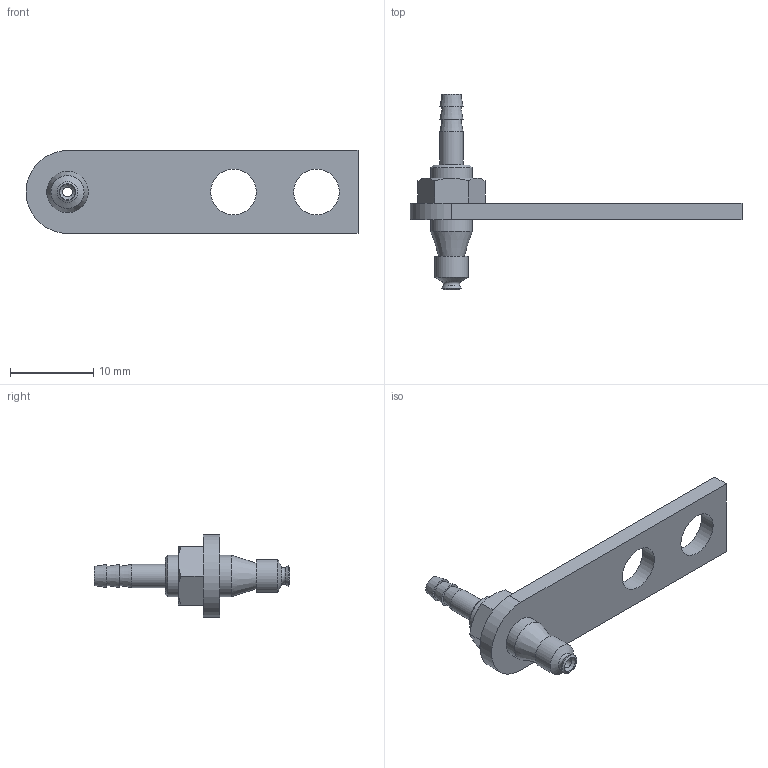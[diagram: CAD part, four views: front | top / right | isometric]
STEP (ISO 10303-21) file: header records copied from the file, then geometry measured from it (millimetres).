
FILE_DESCRIPTION(('STEP AP203'),'1');
FILE_NAME('.stp','2025-04-07T01:19:46',(' '),(' '),'Spatial InterOp 3D',' ',' ');
FILE_SCHEMA(('CONFIG_CONTROL_DESIGN'));
Length unit declared in the file: millimetre
Products named in the file (5): BBPFTK-2A-※; PF_K-Mounting plate; NUT-2A; PFTK-1.5A; BPFG-2A-※
Assembly tree (4 placements, depth 2):
  BBPFTK-2A-※
    PF_K-Mounting plate
    NUT-2A
    PFTK-1.5A
    BPFG-2A-※
Bounding box: 40 x 23.5 x 10 mm (x, y, z)
Volume: 978.4 mm3; surface area: 1559.5 mm2
Topology: 4 solids, 4 shells, 63 faces, 126 edges, 77 vertices
Faces by surface type: plane 23, cone 17, cylinder 14, torus 8, bspline 1
Full cylindrical faces by diameter (mm): 1.2 x2, 2 x2, 2.8 x1, 3 x2, 4 x1, 4.459 x1, 5 x2, 5.5 x2
Entity records: 1801 total; most frequent: CARTESIAN_POINT 359, DIRECTION 266, ORIENTED_EDGE 178, AXIS2_PLACEMENT_3D 122, EDGE_LOOP 114, EDGE_CURVE 89, FACE_OUTER_BOUND 85, VERTEX_POINT 73
